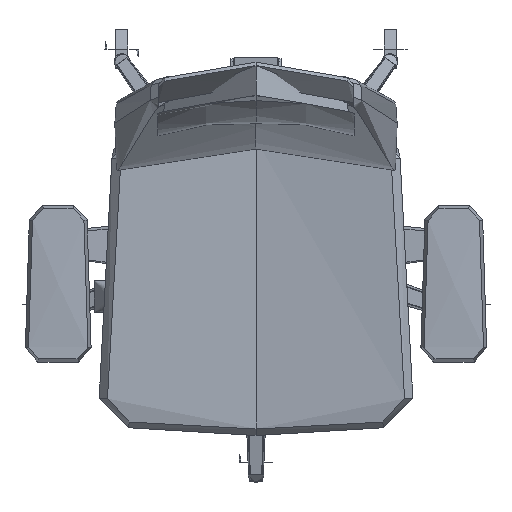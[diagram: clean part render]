
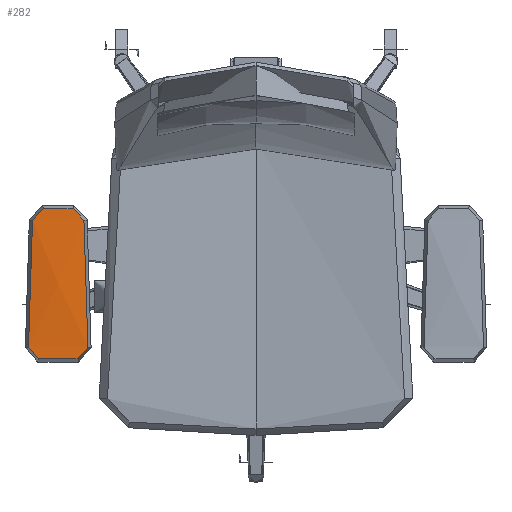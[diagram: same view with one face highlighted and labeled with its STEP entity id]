
A CAD part, top view. The second image highlights one B-rep face of the part: STEP entity #282.
In plain terms, the highlighted free-form (B-spline) face has degree [3, 3] with [5, 5] control points.
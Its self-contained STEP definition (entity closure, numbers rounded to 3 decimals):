
#282=ADVANCED_FACE('',(#766),#7067,.T.);
#766=FACE_OUTER_BOUND('',#1250,.T.);
#1250=EDGE_LOOP('',(#2238,#2239,#2240,#2241,#2242,#2243,#2244,#2245));
#2238=ORIENTED_EDGE('',*,*,#4075,.F.);
#2239=ORIENTED_EDGE('',*,*,#4074,.F.);
#2240=ORIENTED_EDGE('',*,*,#4073,.F.);
#2241=ORIENTED_EDGE('',*,*,#4085,.F.);
#2242=ORIENTED_EDGE('',*,*,#4072,.F.);
#2243=ORIENTED_EDGE('',*,*,#4071,.F.);
#2244=ORIENTED_EDGE('',*,*,#4070,.F.);
#2245=ORIENTED_EDGE('',*,*,#4084,.F.);
#4070=EDGE_CURVE('',#6291,#6292,#5081,.T.);
#4071=EDGE_CURVE('',#6292,#6293,#5082,.T.);
#4072=EDGE_CURVE('',#6293,#6294,#5083,.T.);
#4073=EDGE_CURVE('',#6295,#6296,#5084,.T.);
#4074=EDGE_CURVE('',#6296,#6297,#5085,.T.);
#4075=EDGE_CURVE('',#6297,#6290,#5086,.T.);
#4084=EDGE_CURVE('',#6290,#6291,#5087,.T.);
#4085=EDGE_CURVE('',#6294,#6295,#5088,.T.);
#5081=B_SPLINE_CURVE_WITH_KNOTS('',3,(#22559,#22560,#22561,#22562,#22563,
#22564,#22565),.UNSPECIFIED.,.F.,.F.,(4,3,4),(0.,12.445,24.857),
 .UNSPECIFIED.);
#5082=B_SPLINE_CURVE_WITH_KNOTS('',3,(#22566,#22567,#22568,#22569,#22570,
#22571,#22572,#22573,#22574,#22575,#22576),.UNSPECIFIED.,.F.,.F.,(4,2,3,
2,4),(0.,14.817,29.633,44.448,59.265),
 .UNSPECIFIED.);
#5083=B_SPLINE_CURVE_WITH_KNOTS('',3,(#22577,#22578,#22579,#22580,#22581,
#22582,#22583),.UNSPECIFIED.,.F.,.F.,(4,3,4),(0.,12.412,24.857),
 .UNSPECIFIED.);
#5084=B_SPLINE_CURVE_WITH_KNOTS('',3,(#22584,#22585,#22586,#22587,#22588,
#22589,#22590),.UNSPECIFIED.,.F.,.F.,(4,3,4),(0.,12.85,25.723),
 .UNSPECIFIED.);
#5085=B_SPLINE_CURVE_WITH_KNOTS('',3,(#22591,#22592,#22593,#22594,#22595,
#22596,#22597),.UNSPECIFIED.,.F.,.F.,(4,3,4),(0.,22.404,44.809),
 .UNSPECIFIED.);
#5086=B_SPLINE_CURVE_WITH_KNOTS('',3,(#22598,#22599,#22600,#22601,#22602,
#22603,#22604),.UNSPECIFIED.,.F.,.F.,(4,3,4),(0.,12.873,25.723),
 .UNSPECIFIED.);
#5087=B_SPLINE_CURVE_WITH_KNOTS('',3,(#22621,#22622,#22623,#22624,#22625,
#22626,#22627,#22628,#22629,#22630,#22631),.UNSPECIFIED.,.F.,.F.,(4,2,3,
2,4),(0.,47.289,94.941,141.92,188.907),
 .UNSPECIFIED.);
#5088=B_SPLINE_CURVE_WITH_KNOTS('',3,(#22632,#22633,#22634,#22635,#22636,
#22637,#22638,#22639,#22640,#22641,#22642),.UNSPECIFIED.,.F.,.F.,(4,2,3,
2,4),(0.,46.987,93.966,141.618,188.907),
 .UNSPECIFIED.);
#6290=VERTEX_POINT('',#22487);
#6291=VERTEX_POINT('',#22488);
#6292=VERTEX_POINT('',#22489);
#6293=VERTEX_POINT('',#22490);
#6294=VERTEX_POINT('',#22491);
#6295=VERTEX_POINT('',#22492);
#6296=VERTEX_POINT('',#22493);
#6297=VERTEX_POINT('',#22494);
#7067=B_SPLINE_SURFACE_WITH_KNOTS('',3,3,((#22446,#22447,#22448,#22449,
#22450),(#22451,#22452,#22453,#22454,#22455),(#22456,#22457,#22458,#22459,
#22460),(#22461,#22462,#22463,#22464,#22465),(#22466,#22467,#22468,#22469,
#22470)),.UNSPECIFIED.,.F.,.F.,.F.,(4,1,4),(4,1,4),(0.,46.393,
92.785),(0.,115.149,230.299),.UNSPECIFIED.);
#22446=CARTESIAN_POINT('',(-339.629,-172.146,670.683));
#22447=CARTESIAN_POINT('',(-339.629,-133.813,671.021));
#22448=CARTESIAN_POINT('',(-339.629,-57.147,671.023));
#22449=CARTESIAN_POINT('',(-339.629,19.519,671.021));
#22450=CARTESIAN_POINT('',(-339.629,57.852,670.683));
#22451=CARTESIAN_POINT('',(-324.296,-172.146,671.146));
#22452=CARTESIAN_POINT('',(-324.296,-133.813,674.226));
#22453=CARTESIAN_POINT('',(-324.296,-57.147,674.18));
#22454=CARTESIAN_POINT('',(-324.296,19.519,674.226));
#22455=CARTESIAN_POINT('',(-324.296,57.852,671.146));
#22456=CARTESIAN_POINT('',(-293.63,-172.146,671.146));
#22457=CARTESIAN_POINT('',(-293.63,-133.813,674.208));
#22458=CARTESIAN_POINT('',(-293.63,-57.147,676.288));
#22459=CARTESIAN_POINT('',(-293.63,19.519,674.208));
#22460=CARTESIAN_POINT('',(-293.63,57.852,671.146));
#22461=CARTESIAN_POINT('',(-262.965,-172.146,671.146));
#22462=CARTESIAN_POINT('',(-262.965,-133.813,674.226));
#22463=CARTESIAN_POINT('',(-262.965,-57.147,674.18));
#22464=CARTESIAN_POINT('',(-262.965,19.519,674.226));
#22465=CARTESIAN_POINT('',(-262.965,57.852,671.146));
#22466=CARTESIAN_POINT('',(-247.632,-172.146,670.683));
#22467=CARTESIAN_POINT('',(-247.632,-133.813,671.021));
#22468=CARTESIAN_POINT('',(-247.632,-57.147,671.023));
#22469=CARTESIAN_POINT('',(-247.632,19.519,671.021));
#22470=CARTESIAN_POINT('',(-247.632,57.852,670.683));
#22487=CARTESIAN_POINT('',(-255.483,37.539,671.554));
#22488=CARTESIAN_POINT('',(-249.52,-151.082,671.039));
#22489=CARTESIAN_POINT('',(-264.227,-168.351,671.252));
#22490=CARTESIAN_POINT('',(-323.034,-168.351,671.252));
#22491=CARTESIAN_POINT('',(-337.74,-151.082,671.039));
#22492=CARTESIAN_POINT('',(-331.777,37.539,671.554));
#22493=CARTESIAN_POINT('',(-315.859,54.982,671.296));
#22494=CARTESIAN_POINT('',(-271.402,54.982,671.296));
#22559=CARTESIAN_POINT('',(-249.52,-151.082,671.039));
#22560=CARTESIAN_POINT('',(-249.695,-155.189,671.01));
#22561=CARTESIAN_POINT('',(-251.266,-159.115,671.106));
#22562=CARTESIAN_POINT('',(-253.933,-162.235,671.161));
#22563=CARTESIAN_POINT('',(-256.594,-165.349,671.215));
#22564=CARTESIAN_POINT('',(-260.215,-167.509,671.223));
#22565=CARTESIAN_POINT('',(-264.227,-168.351,671.252));
#22566=CARTESIAN_POINT('',(-264.227,-168.351,671.252));
#22567=CARTESIAN_POINT('',(-269.062,-169.366,671.287));
#22568=CARTESIAN_POINT('',(-273.935,-170.142,671.266));
#22569=CARTESIAN_POINT('',(-283.761,-171.184,671.224));
#22570=CARTESIAN_POINT('',(-288.69,-171.448,671.202));
#22571=CARTESIAN_POINT('',(-293.63,-171.448,671.202));
#22572=CARTESIAN_POINT('',(-298.571,-171.448,671.202));
#22573=CARTESIAN_POINT('',(-303.5,-171.184,671.224));
#22574=CARTESIAN_POINT('',(-313.325,-170.142,671.266));
#22575=CARTESIAN_POINT('',(-318.198,-169.366,671.287));
#22576=CARTESIAN_POINT('',(-323.034,-168.351,671.252));
#22577=CARTESIAN_POINT('',(-323.034,-168.351,671.252));
#22578=CARTESIAN_POINT('',(-327.045,-167.509,671.223));
#22579=CARTESIAN_POINT('',(-330.666,-165.349,671.215));
#22580=CARTESIAN_POINT('',(-333.327,-162.235,671.161));
#22581=CARTESIAN_POINT('',(-335.994,-159.115,671.106));
#22582=CARTESIAN_POINT('',(-337.566,-155.189,671.01));
#22583=CARTESIAN_POINT('',(-337.74,-151.082,671.039));
#22584=CARTESIAN_POINT('',(-331.777,37.539,671.554));
#22585=CARTESIAN_POINT('',(-331.351,41.763,671.472));
#22586=CARTESIAN_POINT('',(-329.558,45.738,671.463));
#22587=CARTESIAN_POINT('',(-326.699,48.872,671.421));
#22588=CARTESIAN_POINT('',(-323.834,52.014,671.379));
#22589=CARTESIAN_POINT('',(-320.034,54.164,671.31));
#22590=CARTESIAN_POINT('',(-315.859,54.982,671.296));
#22591=CARTESIAN_POINT('',(-315.859,54.982,671.296));
#22592=CARTESIAN_POINT('',(-308.525,56.418,671.271));
#22593=CARTESIAN_POINT('',(-301.104,57.154,671.202));
#22594=CARTESIAN_POINT('',(-293.63,57.154,671.202));
#22595=CARTESIAN_POINT('',(-286.156,57.154,671.202));
#22596=CARTESIAN_POINT('',(-278.735,56.418,671.271));
#22597=CARTESIAN_POINT('',(-271.402,54.982,671.296));
#22598=CARTESIAN_POINT('',(-271.402,54.982,671.296));
#22599=CARTESIAN_POINT('',(-267.227,54.164,671.31));
#22600=CARTESIAN_POINT('',(-263.427,52.014,671.379));
#22601=CARTESIAN_POINT('',(-260.562,48.872,671.421));
#22602=CARTESIAN_POINT('',(-257.703,45.738,671.463));
#22603=CARTESIAN_POINT('',(-255.909,41.763,671.472));
#22604=CARTESIAN_POINT('',(-255.483,37.539,671.554));
#22621=CARTESIAN_POINT('',(-255.483,37.539,671.554));
#22622=CARTESIAN_POINT('',(-253.901,21.855,671.858));
#22623=CARTESIAN_POINT('',(-252.494,5.978,671.799));
#22624=CARTESIAN_POINT('',(-250.263,-25.594,671.559));
#22625=CARTESIAN_POINT('',(-249.438,-41.269,671.386));
#22626=CARTESIAN_POINT('',(-248.925,-57.147,671.284));
#22627=CARTESIAN_POINT('',(-248.418,-72.823,671.184));
#22628=CARTESIAN_POINT('',(-248.225,-88.436,671.145));
#22629=CARTESIAN_POINT('',(-248.442,-119.807,671.123));
#22630=CARTESIAN_POINT('',(-248.854,-135.41,671.151));
#22631=CARTESIAN_POINT('',(-249.52,-151.082,671.039));
#22632=CARTESIAN_POINT('',(-337.74,-151.082,671.039));
#22633=CARTESIAN_POINT('',(-338.407,-135.41,671.151));
#22634=CARTESIAN_POINT('',(-338.819,-119.807,671.123));
#22635=CARTESIAN_POINT('',(-339.035,-88.436,671.145));
#22636=CARTESIAN_POINT('',(-338.842,-72.823,671.184));
#22637=CARTESIAN_POINT('',(-338.336,-57.147,671.284));
#22638=CARTESIAN_POINT('',(-337.823,-41.269,671.386));
#22639=CARTESIAN_POINT('',(-336.997,-25.594,671.559));
#22640=CARTESIAN_POINT('',(-334.767,5.978,671.799));
#22641=CARTESIAN_POINT('',(-333.36,21.855,671.858));
#22642=CARTESIAN_POINT('',(-331.777,37.539,671.554));
